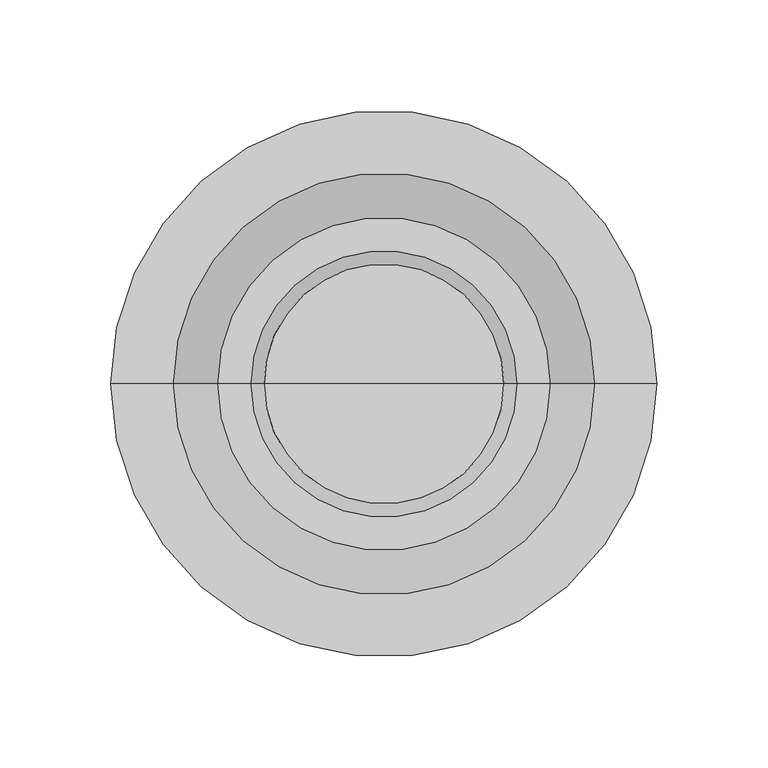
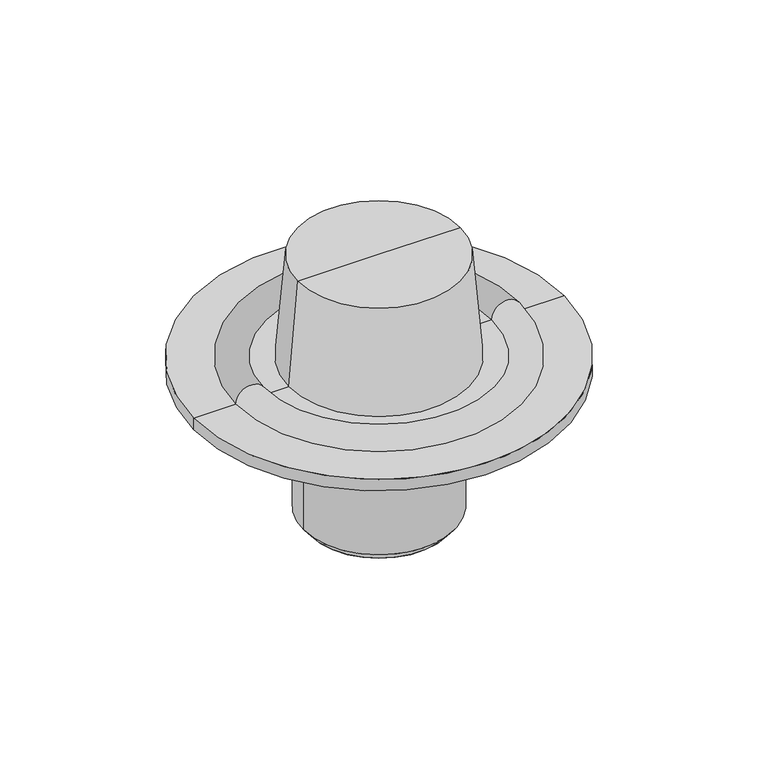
"""IFC4 building model written with IfcOpenShell, lengths in millimetres: flow terminal geometry, ARC_PF_desaigua coberta : Diámetro salida 70mm."""

from ifc_helpers import new_model, si_unit, point, frame, origin, origin_with_axes, origin_2d, place, context, project, spatial, polyline, circle_curve, ellipse_curve, trimmed, segment, composite_curve, outline, extrude, source, transform, mapped, element, save
from ifc_brep_helpers import plane_surface, cylinder_surface, revolved_surface, advanced_brep


def flow_terminal_561f22d3(model_context):
    return source(origin(), model_context, "Body", "SolidModel", [
        extrude(outline(composite_curve([segment(trimmed(circle_curve(origin_2d(), 45.0), [point((-45.0, 0.0))], [point((45.0, 0.0))], False, "CARTESIAN"), True, "CONTINUOUS"), segment(trimmed(circle_curve(origin_2d(), 45.0), [point((45.0, 0.0))], [point((-45.0, 0.0))], False, "CARTESIAN"), True, "CONTINUOUS")], self_intersect=False)), origin_with_axes(), (0.0, 0.0, 1.0), 6.0),
        advanced_brep(
        [(-45.0, 0.0, 0.0), (-45.0, 0.0, 6.0), (45.0, 0.0, 6.0), (45.0, 0.0, 0.0), (-50.0, 0.0, 6.0), (50.0, 0.0, 6.0), (-50.0, 0.0, 76.0), (50.0, 0.0, 76.0), (-55.0, 0.0, 82.0), (55.0, 0.0, 82.0), (-55.0, 0.0, 102.0), (55.0, 0.0, 102.0), (-123.0, 0.0, 102.0), (123.0, 0.0, 102.0), (-123.0, 0.0, 110.0), (123.0, 0.0, 110.0), (-95.0, 0.0, 110.0), (95.0, 0.0, 110.0), (-75.0, 0.0, 110.0), (75.0, 0.0, 110.0), (-60.0, 0.0, 110.0), (60.0, 0.0, 110.0), (-54.0, 0.0, 182.0), (54.0, 0.0, 182.0), (0.0, 0.0, 182.0), (0.0, 0.0, 6.0)],
        [
            (0, 1),
            (1, 2, circle_curve(frame((0.0, 0.0, 6.0), z_axis=(0.0, 0.0, 1.0), x_axis=(1.0, 0.0, 0.0)), 45.0)),
            (2, 3),
            (3, 0, circle_curve(frame((0.0, 0.0, 0.0), z_axis=(0.0, 0.0, -1.0), x_axis=(1.0, 0.0, 0.0)), 45.0)),
            (2, 1, circle_curve(frame((0.0, 0.0, 6.0), z_axis=(0.0, 0.0, 1.0), x_axis=(1.0, 0.0, 0.0)), 45.0)),
            (0, 3, circle_curve(frame((0.0, 0.0, 0.0), z_axis=(0.0, 0.0, -1.0), x_axis=(1.0, 0.0, 0.0)), 45.0)),
            (4, 0),
            (3, 5),
            (5, 4, circle_curve(frame((0.0, 0.0, 6.0), z_axis=(0.0, 0.0, -1.0), x_axis=(1.0, 0.0, 0.0)), 50.0)),
            (4, 5, circle_curve(frame((0.0, 0.0, 6.0), z_axis=(0.0, 0.0, -1.0), x_axis=(1.0, 0.0, 0.0)), 50.0)),
            (6, 4),
            (5, 7),
            (7, 6, circle_curve(frame((0.0, 0.0, 76.0), z_axis=(0.0, 0.0, -1.0), x_axis=(1.0, 0.0, 0.0)), 50.0)),
            (6, 7, circle_curve(frame((0.0, 0.0, 76.0), z_axis=(0.0, 0.0, -1.0), x_axis=(1.0, 0.0, 0.0)), 50.0)),
            (8, 6),
            (7, 9),
            (9, 8, circle_curve(frame((0.0, 0.0, 82.0), z_axis=(0.0, 0.0, -1.0), x_axis=(1.0, 0.0, 0.0)), 55.0)),
            (8, 9, circle_curve(frame((0.0, 0.0, 82.0), z_axis=(0.0, 0.0, -1.0), x_axis=(1.0, 0.0, 0.0)), 55.0)),
            (10, 8),
            (9, 11),
            (11, 10, circle_curve(frame((0.0, 0.0, 102.0), z_axis=(0.0, 0.0, -1.0), x_axis=(1.0, 0.0, 0.0)), 55.0)),
            (10, 11, circle_curve(frame((0.0, 0.0, 102.0), z_axis=(0.0, 0.0, -1.0), x_axis=(1.0, 0.0, 0.0)), 55.0)),
            (12, 10),
            (11, 13),
            (13, 12, circle_curve(frame((0.0, 0.0, 102.0), z_axis=(0.0, 0.0, -1.0), x_axis=(1.0, 0.0, 0.0)), 123.0)),
            (12, 13, circle_curve(frame((0.0, 0.0, 102.0), z_axis=(0.0, 0.0, -1.0), x_axis=(1.0, 0.0, 0.0)), 123.0)),
            (14, 12),
            (13, 15),
            (15, 14, circle_curve(frame((0.0, 0.0, 110.0), z_axis=(0.0, 0.0, -1.0), x_axis=(1.0, 0.0, 0.0)), 123.0)),
            (14, 15, circle_curve(frame((0.0, 0.0, 110.0), z_axis=(0.0, 0.0, -1.0), x_axis=(1.0, 0.0, 0.0)), 123.0)),
            (16, 14),
            (15, 17),
            (17, 16, circle_curve(frame((0.0, 0.0, 110.0), z_axis=(0.0, 0.0, -1.0), x_axis=(1.0, 0.0, 0.0)), 95.0)),
            (16, 17, circle_curve(frame((0.0, 0.0, 110.0), z_axis=(0.0, 0.0, -1.0), x_axis=(1.0, 0.0, 0.0)), 95.0)),
            (18, 16, circle_curve(frame((-85.0, 0.0, 110.0), z_axis=(0.0, -1.0, 0.0), x_axis=(-1.0, 0.0, 0.0)), 10.0)),
            (17, 19, circle_curve(frame((85.0, 0.0, 110.0), z_axis=(0.0, -1.0, 0.0), x_axis=(1.0, 0.0, 0.0)), 10.0)),
            (19, 18, circle_curve(frame((0.0, 0.0, 110.0), z_axis=(0.0, 0.0, -1.0), x_axis=(1.0, 0.0, 0.0)), 75.0)),
            (18, 19, circle_curve(frame((0.0, 0.0, 110.0), z_axis=(0.0, 0.0, -1.0), x_axis=(1.0, 0.0, 0.0)), 75.0)),
            (20, 18),
            (19, 21),
            (21, 20, circle_curve(frame((0.0, 0.0, 110.0), z_axis=(0.0, 0.0, -1.0), x_axis=(1.0, 0.0, 0.0)), 60.0)),
            (20, 21, circle_curve(frame((0.0, 0.0, 110.0), z_axis=(0.0, 0.0, -1.0), x_axis=(1.0, 0.0, 0.0)), 60.0)),
            (22, 20),
            (21, 23),
            (23, 22, circle_curve(frame((0.0, 0.0, 182.0), z_axis=(0.0, 0.0, -1.0), x_axis=(1.0, 0.0, 0.0)), 54.0)),
            (22, 23, circle_curve(frame((0.0, 0.0, 182.0), z_axis=(0.0, 0.0, -1.0), x_axis=(1.0, 0.0, 0.0)), 54.0)),
            (24, 22),
            (23, 24),
            (1, 25),
            (25, 2),
        ],
        [
            revolved_surface(polyline([(45.0, 0.0, 6.0), (45.0, 0.0, 0.0)]), (0.0, 0.0, 197.0), (0.0, 0.0, 1.0)),
            revolved_surface(polyline([(45.0, 0.0, 0.0), (50.0, 0.0, 6.0)]), (0.0, 0.0, 197.0), (0.0, 0.0, 1.0)),
            cylinder_surface(frame((0.0, 0.0, 197.0), z_axis=(0.0, 0.0, 1.0), x_axis=(1.0, 0.0, 0.0)), 50.0),
            revolved_surface(polyline([(50.0, 0.0, 76.0), (55.0, 0.0, 82.0)]), (0.0, 0.0, 197.0), (0.0, 0.0, 1.0)),
            cylinder_surface(frame((0.0, 0.0, 197.0), z_axis=(0.0, 0.0, 1.0), x_axis=(1.0, 0.0, 0.0)), 55.0),
            plane_surface(frame((0.0, 0.0, 102.0), z_axis=(0.0, 0.0, -1.0), x_axis=(1.0, 0.0, 0.0))),
            cylinder_surface(frame((0.0, 0.0, 197.0), z_axis=(0.0, 0.0, 1.0), x_axis=(1.0, 0.0, 0.0)), 123.0),
            plane_surface(frame((0.0, 0.0, 110.0), z_axis=(0.0, 0.0, 1.0), x_axis=(1.0, 0.0, 0.0))),
            revolved_surface(trimmed(ellipse_curve(frame((85.0, 0.0, 110.0), z_axis=(0.0, -1.0, 0.0), x_axis=(1.0, 0.0, 0.0)), 10.0, 10.0), [point((95.0, 0.0, 110.0))], [point((75.0, 0.0, 110.0))], True, "CARTESIAN"), (0.0, 0.0, 197.0), (0.0, 0.0, 1.0)),
            revolved_surface(polyline([(60.0, 0.0, 110.0), (54.0, 0.0, 182.0)]), (0.0, 0.0, 197.0), (0.0, 0.0, 1.0)),
            plane_surface(frame((0.0, 0.0, 182.0), z_axis=(0.0, 0.0, 1.0), x_axis=(1.0, 0.0, 0.0))),
            plane_surface(frame((0.0, 0.0, 6.0), z_axis=(0.0, 0.0, -1.0), x_axis=(1.0, 0.0, 0.0))),
        ],
        [
            (0, [[1, 2, 3, 4]]),
            (0, [[-3, 5, -1, 6]]),
            (1, [[7, -4, 8, 9]]),
            (1, [[-8, -6, -7, 10]]),
            (2, [[11, -9, 12, 13]]),
            (2, [[-12, -10, -11, 14]]),
            (3, [[15, -13, 16, 17]]),
            (3, [[-16, -14, -15, 18]]),
            (4, [[19, -17, 20, 21]]),
            (4, [[-20, -18, -19, 22]]),
            (5, [[23, -21, 24, 25]]),
            (5, [[-24, -22, -23, 26]]),
            (6, [[27, -25, 28, 29]]),
            (6, [[-28, -26, -27, 30]]),
            (7, [[31, -29, 32, 33]]),
            (7, [[-32, -30, -31, 34]]),
            (8, [[35, -33, 36, 37]]),
            (8, [[-36, -34, -35, 38]]),
            (7, [[39, -37, 40, 41]]),
            (7, [[-40, -38, -39, 42]]),
            (9, [[43, -41, 44, 45]]),
            (9, [[-44, -42, -43, 46]]),
            (10, [[47, -45, 48]]),
            (10, [[-48, -46, -47]]),
            (11, [[49, 50, -2]]),
            (11, [[-50, -49, -5]]),
        ],
    ),
    ])


if __name__ == "__main__":
    model = new_model("IFC4")
    model_context = context("Model", 3, world=origin())
    ifc_project = project(units=[si_unit("LENGTHUNIT", "METRE", prefix="MILLI")], contexts=[model_context])
    site = spatial("IfcSite", under=ifc_project)
    building = spatial("IfcBuilding", under=site)
    placement = place(None, origin())
    flow_terminal_shape = flow_terminal_561f22d3(model_context)
    element("IfcFlowTerminal", 1, ObjectType="ARC_PF_desaigua coberta : Diámetro salida 70mm", at=placement, inside=building, context=model_context, shape_type="MappedRepresentation", body=[
        mapped(flow_terminal_shape, transform((0.0, 0.0, 0.0), x_axis=(1.0, 0.0, 0.0), y_axis=(0.0, 1.0, 0.0), z_axis=(0.0, 0.0, 1.0))),
    ])
    save(model, "model.ifc")
